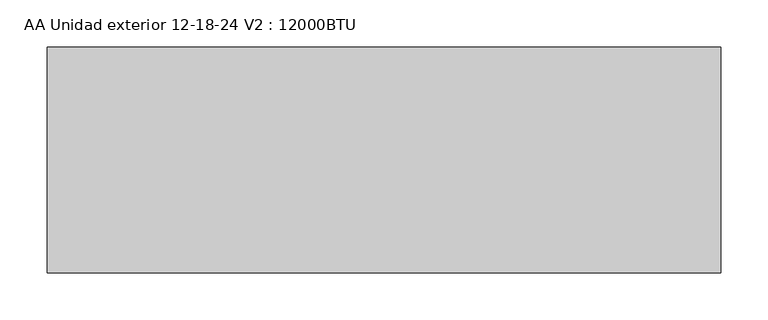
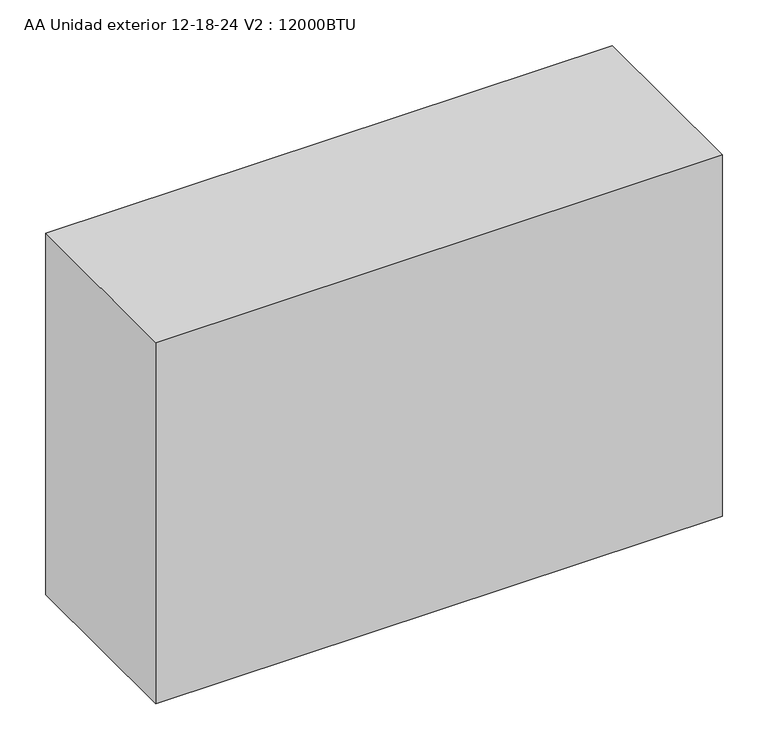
"""IFC4 building model written with IfcOpenShell, lengths in millimetres: proxy geometry, AA Unidad exterior 12-18-24 V2 : 12000BTU."""

import ifcopenshell
import ifcopenshell.guid

model = None  # the IFC model being written
_history = None  # IfcOwnerHistory: only IFC2X3 demands one
_inside = {}  # id of a spatial element -> (the spatial element, [elements in it])
_under = {}  # id of a project, library or spatial element -> (it, [spatial elements below it])
_declared = {}  # id of a project -> (the project, [libraries it declares])
_typed = {}  # id of a type object -> (the type object, [elements of that type])
_made_of = {}  # id of a material, layer set ... -> (it, [elements and type objects made of it])


def new_model(schema):
    """Start an empty IFC model of exactly this schema.

    Asked for "IFC4X3", IfcOpenShell would pick the latest addendum, in which some entities
    have other attributes; the version numbers below select the first issue.
    IFC2X3 requires an IfcOwnerHistory on every rooted entity: one is made here for all.
    """
    global model, _history
    if schema == "IFC4X3":
        model = ifcopenshell.file(schema_version=(4, 3, 0, 0))
    else:
        model = ifcopenshell.file(schema=schema)
    _inside.clear()
    _under.clear()
    _declared.clear()
    _typed.clear()
    _made_of.clear()
    _history = None
    if model.schema == "IFC2X3":
        org = make("IfcOrganization", Name="unknown")
        user = make(
            "IfcPersonAndOrganization",
            ThePerson=make("IfcPerson", FamilyName="unknown"),
            TheOrganization=org,
        )
        app = make(
            "IfcApplication",
            ApplicationDeveloper=org,
            Version="unknown",
            ApplicationFullName="unknown",
            ApplicationIdentifier="unknown",
        )
        _history = make(
            "IfcOwnerHistory",
            OwningUser=user,
            OwningApplication=app,
            ChangeAction="ADDED",
            CreationDate=0,
        )
    return model


def make(cls, **values):
    """One entity of the class cls with the attributes given. An attribute that is None is left unset."""
    return model.create_entity(
        cls, **{name: value for name, value in values.items() if value is not None}
    )


def rooted(cls, **values):
    """An entity with a GlobalId (a new one), such as an element, a storey or a relation."""
    return make(cls, GlobalId=ifcopenshell.guid.new(), OwnerHistory=_history, **values)


def si_unit(unit_type, name, prefix=None):
    """IfcSIUnit, for example si_unit("LENGTHUNIT", "METRE", prefix="MILLI")."""
    return make("IfcSIUnit", UnitType=unit_type, Prefix=prefix, Name=name)


def assignment(units):
    """IfcUnitAssignment: the units of a project."""
    return None if units is None else make("IfcUnitAssignment", Units=units)


def point(xyz):
    """IfcCartesianPoint."""
    return None if xyz is None else make("IfcCartesianPoint", Coordinates=xyz)


def direction(xyz):
    """IfcDirection."""
    return None if xyz is None else make("IfcDirection", DirectionRatios=xyz)


def frame(location, z_axis=None, x_axis=None):
    """IfcAxis2Placement3D, a coordinate frame: its origin and axes. An axis left out is left unset."""
    return make(
        "IfcAxis2Placement3D",
        Location=point(location),
        Axis=direction(z_axis),
        RefDirection=direction(x_axis),
    )


def origin():
    """The frame at (0, 0, 0) with its axes left unset."""
    return frame((0.0, 0.0, 0.0))


def origin_with_axes():
    """The frame at (0, 0, 0) with the z axis (0, 0, 1) and the x axis (1, 0, 0) written out."""
    return frame((0.0, 0.0, 0.0), z_axis=(0.0, 0.0, 1.0), x_axis=(1.0, 0.0, 0.0))


def place(relative_to, where):
    """IfcLocalPlacement: puts the frame where relative to a parent placement (None: the world)."""
    return make(
        "IfcLocalPlacement", PlacementRelTo=relative_to, RelativePlacement=where
    )


def context(
    kind, dimensions, precision=None, world=None, true_north=None, identifier=None
):
    """IfcGeometricRepresentationContext, for example the 3D "Model" context."""
    return make(
        "IfcGeometricRepresentationContext",
        ContextIdentifier=identifier,
        ContextType=kind,
        CoordinateSpaceDimension=dimensions,
        Precision=precision,
        WorldCoordinateSystem=world,
        TrueNorth=true_north,
    )


def project(units=None, contexts=None):
    """IfcProject with its units and contexts."""
    return rooted(
        "IfcProject",
        Name="project",
        RepresentationContexts=contexts,
        UnitsInContext=assignment(units),
    )


def spatial(cls, under=None, at=None, **own):
    """A site, building, storey or space (cls), placed at a placement, below another one or the project."""
    s = rooted(cls, ObjectPlacement=at, **own)
    if under is not None:
        _under.setdefault(under.id(), (under, []))[1].append(s)
    return s


def polyline(points):
    """IfcPolyline through the points."""
    return make("IfcPolyline", Points=[point(p) for p in points])


def outline(outer, holes=None, kind="AREA"):
    """IfcArbitraryClosedProfileDef: a profile drawn as a closed curve; with holes, ...WithVoids."""
    if holes is None:
        return make("IfcArbitraryClosedProfileDef", ProfileType=kind, OuterCurve=outer)
    return make(
        "IfcArbitraryProfileDefWithVoids",
        ProfileType=kind,
        OuterCurve=outer,
        InnerCurves=holes,
    )


def extrude(swept, where, along, depth):
    """IfcExtrudedAreaSolid: the profile swept, set in the frame where, extruded along a direction by depth."""
    return make(
        "IfcExtrudedAreaSolid",
        SweptArea=swept,
        Position=where,
        ExtrudedDirection=direction(along),
        Depth=depth,
    )


def shape(context_of_items, identifier, shape_type, items):
    """IfcShapeRepresentation: the items that make up one representation, for example the "Body"."""
    return make(
        "IfcShapeRepresentation",
        ContextOfItems=context_of_items,
        RepresentationIdentifier=identifier,
        RepresentationType=shape_type,
        Items=items,
    )


def source(mapping_origin, context_of_items, identifier, shape_type, items):
    """IfcRepresentationMap: a shape defined once, which mapped items show again and again."""
    return make(
        "IfcRepresentationMap",
        MappingOrigin=mapping_origin,
        MappedRepresentation=shape(context_of_items, identifier, shape_type, items),
    )


def transform(
    local_origin,
    x_axis=None,
    y_axis=None,
    z_axis=None,
    scale=None,
    scale2=None,
    scale3=None,
    uniform=True,
):
    """IfcCartesianTransformationOperator3D, or its non-uniform kind. x_axis, y_axis, z_axis: its Axis1, 2, 3."""
    if uniform:
        return make(
            "IfcCartesianTransformationOperator3D",
            Axis1=direction(x_axis),
            Axis2=direction(y_axis),
            LocalOrigin=point(local_origin),
            Scale=scale,
            Axis3=direction(z_axis),
        )
    return make(
        "IfcCartesianTransformationOperator3DnonUniform",
        Axis1=direction(x_axis),
        Axis2=direction(y_axis),
        LocalOrigin=point(local_origin),
        Scale=scale,
        Axis3=direction(z_axis),
        Scale2=scale2,
        Scale3=scale3,
    )


def mapped(mapping_source, mapping_target):
    """IfcMappedItem: shows the shape of a source again, moved by a transform."""
    return make(
        "IfcMappedItem", MappingSource=mapping_source, MappingTarget=mapping_target
    )


def made_of(thing, what):
    """Note that an element or type object is made of a material, layer set ...; save() writes the relation."""
    if what is not None:
        _made_of.setdefault(what.id(), (what, []))[1].append(thing)
    return thing


def element(
    cls,
    number,
    at=None,
    inside=None,
    cuts=None,
    type_object=None,
    material=None,
    context=None,
    identifier="Body",
    shape_type=None,
    held_by="IfcProductDefinitionShape",
    body=None,
    shapes=None,
    **own,
):
    """One element of the class cls, such as IfcWall. Its Tag is "e" and its number.

    at: its placement. inside: the storey or other place that contains it. cuts: it is an
    opening in that element (IfcRelVoidsElement). A single representation is given by context,
    identifier, shape_type and body (its items); several are given by shapes. held_by: the class
    of the entity that holds the representations. save() writes the other relations.
    """
    e = rooted(cls, Tag="e%d" % number, ObjectPlacement=at, **own)
    if body is not None:
        shapes = [shape(context, identifier, shape_type, body)]
    if shapes is not None:
        e.Representation = make(held_by, Representations=shapes)
    if inside is not None:
        _inside.setdefault(inside.id(), (inside, []))[1].append(e)
    if cuts is not None:
        rooted(
            "IfcRelVoidsElement", RelatingBuildingElement=cuts, RelatedOpeningElement=e
        )
    if type_object is not None:
        _typed.setdefault(type_object.id(), (type_object, []))[1].append(e)
    return made_of(e, material)


def aggregate(whole, parts):
    """IfcRelAggregates: a whole, such as a stair, and the parts it consists of."""
    return rooted("IfcRelAggregates", RelatingObject=whole, RelatedObjects=parts)


def save(model, path):
    """Write the relations noted so far, then the file.

    IfcRelAggregates (storeys below a building ...), IfcRelContainedInSpatialStructure (elements
    in a storey), IfcRelDefinesByType, IfcRelAssociatesMaterial and IfcRelDeclares: one each for
    every whole, place, type object, material and project.
    """
    for whole, parts in _under.values():
        aggregate(whole, parts)
    for where, things in _inside.values():
        rooted(
            "IfcRelContainedInSpatialStructure",
            RelatedElements=things,
            RelatingStructure=where,
        )
    for kind, things in _typed.values():
        rooted("IfcRelDefinesByType", RelatedObjects=things, RelatingType=kind)
    for what, things in _made_of.values():
        rooted("IfcRelAssociatesMaterial", RelatedObjects=things, RelatingMaterial=what)
    for by, libraries in _declared.values():
        rooted("IfcRelDeclares", RelatingContext=by, RelatedDefinitions=libraries)
    model.write(path)


def aa_unidad_exterior_12_18_24_v2_12000btu_c82194b8(model_context):
    return source(origin(), model_context, "Body", "SweptSolid", [
        extrude(outline(polyline([(357.5, 120.0), (357.5, -120.0), (-357.5, -120.0), (-357.5, 120.0), (357.5, 120.0)])), origin_with_axes(), (0.0, 0.0, 1.0), 482.0),
    ])


if __name__ == "__main__":
    model = new_model("IFC4")
    model_context = context("Model", 3, world=origin())
    ifc_project = project(units=[si_unit("LENGTHUNIT", "METRE", prefix="MILLI")], contexts=[model_context])
    site = spatial("IfcSite", under=ifc_project)
    building = spatial("IfcBuilding", under=site)
    placement = place(None, origin())
    aa_unidad_exterior_12_18_24_v2_12000btu_shape = aa_unidad_exterior_12_18_24_v2_12000btu_c82194b8(model_context)
    element("IfcBuildingElementProxy", 1, Name="AA Unidad exterior 12-18-24 V2 : 12000BTU", ObjectType="AA Unidad exterior 12-18-24 V2 : 12000BTU", at=placement, inside=building, context=model_context, shape_type="MappedRepresentation", body=[
        mapped(aa_unidad_exterior_12_18_24_v2_12000btu_shape, transform((0.0, 0.0, 0.0), x_axis=(1.0, 0.0, 0.0), y_axis=(0.0, 1.0, 0.0), z_axis=(0.0, 0.0, 1.0))),
    ])
    save(model, "model.ifc")
